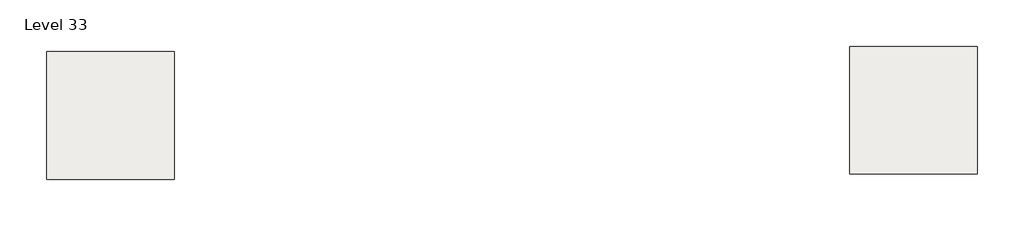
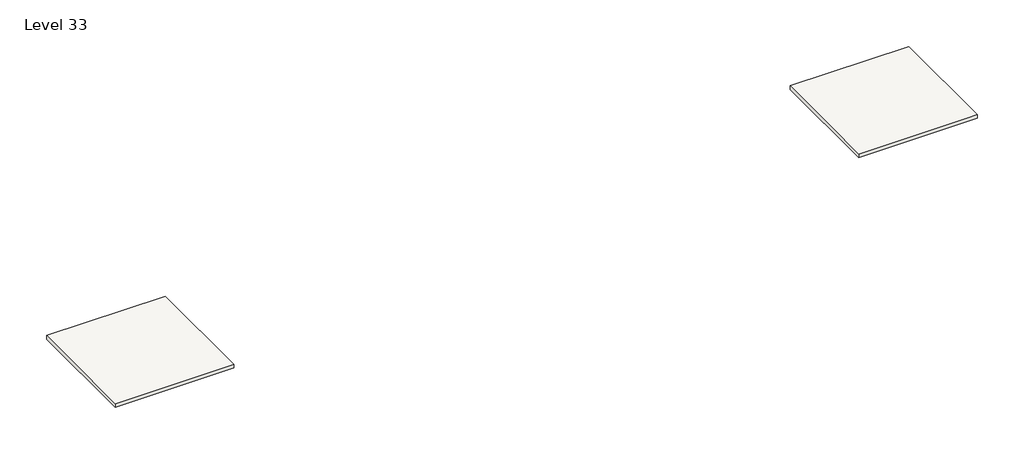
# One storey: 2 slabs.
"""IFC4 building model written with IfcOpenShell, lengths in millimetres."""

from ifc_helpers import new_model, si_unit, frame, origin, place, context, project, spatial, polyline, outline, extrude, element, save

model = new_model("IFC4")

# Units and contexts
model_context = context("Model", 3, world=origin())
ifc_project = project(units=[si_unit("LENGTHUNIT", "METRE", prefix="MILLI")], contexts=[model_context])

# Site, building, storey
site = spatial("IfcSite", under=ifc_project)
building = spatial("IfcBuilding", under=site)
storey = spatial("IfcBuildingStorey", under=building, Name="Level 33", Elevation=97536.0)

# Slabs
placement = place(None, origin())
element("IfcSlab", 1, ObjectType="Generic - 12\"", at=placement, inside=storey, context=model_context, shape_type="SweptSolid", body=[
    extrude(outline(polyline([(-8641.8488996, 6449.9495511), (-8641.8488996, -2694.0504489), (-17785.8488996, -2694.0504489), (-17785.8488996, 6449.9495511), (-8641.8488996, 6449.9495511)])), frame((0.0, 0.0, 97231.2), z_axis=(0.0, 0.0, 1.0), x_axis=(1.0, 0.0, 0.0)), (0.0, 0.0, 1.0), 304.8),
])
element("IfcSlab", 2, ObjectType="Generic - 12\"", at=placement, inside=storey, context=model_context, shape_type="SweptSolid", body=[
    extrude(outline(polyline([(48791.8576677, 6827.0904402), (48791.8576677, -2316.9095598), (39647.8576677, -2316.9095598), (39647.8576677, 6827.0904402), (48791.8576677, 6827.0904402)])), frame((0.0, 0.0, 97231.2), z_axis=(0.0, 0.0, 1.0), x_axis=(1.0, 0.0, 0.0)), (0.0, 0.0, 1.0), 304.8),
])

save(model, "model.ifc")
